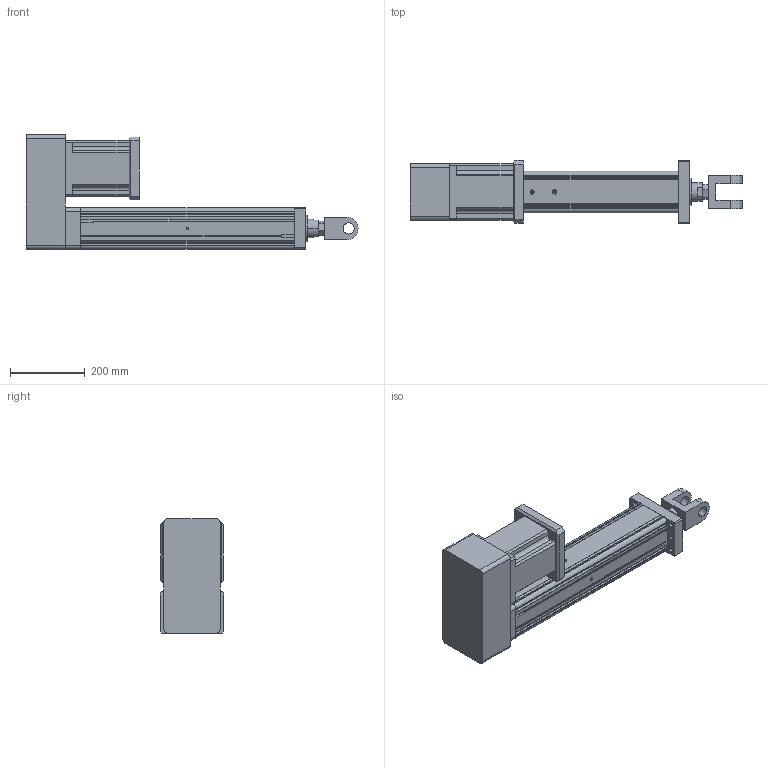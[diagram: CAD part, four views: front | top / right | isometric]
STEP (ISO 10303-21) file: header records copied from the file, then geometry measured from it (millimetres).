
FILE_DESCRIPTION (( 'STEP AP203' ), '1' );
FILE_NAME ('YRJ110-L400-H3K4.STEP', '2020-01-04T06:38:06', ( 'User' ), ( 'China' ), 'SwSTEP 2.0', 'SolidWorks 2016', '' );
FILE_SCHEMA (( 'CONFIG_CONTROL_DESIGN' ));
Length unit declared in the file: millimetre
Products named in the file (7): 142熬厒儂; H3-110-1; H3-110-2; K4-110; YRJ110-L400-H3K4; 095-100俴最倰第; 萇儂碟-110
Assembly tree (6 placements, depth 2):
  YRJ110-L400-H3K4
    095-100俴最倰第
    萇儂碟-110
    142熬厒儂
    H3-110-1
    H3-110-2
    K4-110
Bounding box: 886 x 170 x 305.5 mm (x, y, z)
Volume: 12558204.9 mm3; surface area: 1033549 mm2
Topology: 6 solids, 6 shells, 326 faces, 904 edges, 585 vertices
Faces by surface type: plane 179, cylinder 120, cone 27
Entity records: 11416 total; most frequent: CARTESIAN_POINT 2148, DIRECTION 1791, ORIENTED_EDGE 1776, EDGE_CURVE 888, LINE 611, VECTOR 611, AXIS2_PLACEMENT_3D 590, VERTEX_POINT 585
